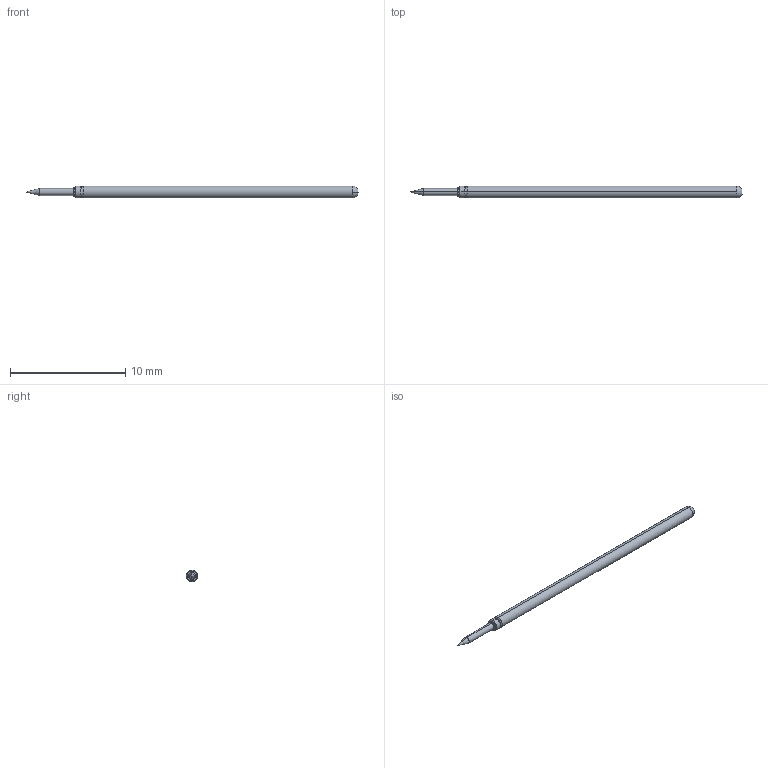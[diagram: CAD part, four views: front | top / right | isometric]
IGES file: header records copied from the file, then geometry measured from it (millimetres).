
Start section: SolidWorks IGES file using analytic representation for surfaces
Global section: file name: Z:\probe solid model mockups\Solidworks models\Parts\LFRE-1B RECD.IGS; native system: SolidWorks 2016; preprocessor: SolidWorks 2016; author: mlee; date: 180927.163036; units: inch
Bounding box: 28.78 x 1.02 x 1.02 mm (x, y, z)
Surface area: 86.1 mm2 (no closed solid volume)
Topology: 0 solids, 0 shells, 20 faces, 124 edges, 122 vertices
Faces by surface type: revolution 14, bspline 6
